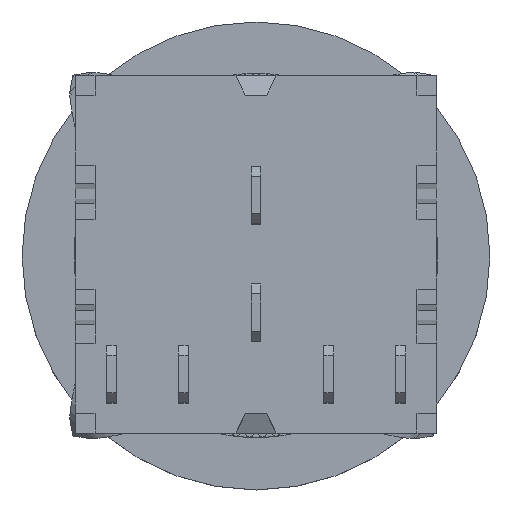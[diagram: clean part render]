
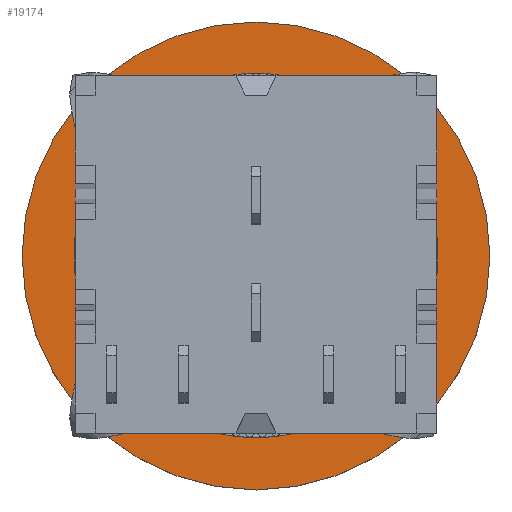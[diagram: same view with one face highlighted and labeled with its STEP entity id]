
A CAD part, top view. The second image highlights one B-rep face of the part: STEP entity #19174.
In plain terms, the highlighted planar face has unit normal (0, 0, 1).
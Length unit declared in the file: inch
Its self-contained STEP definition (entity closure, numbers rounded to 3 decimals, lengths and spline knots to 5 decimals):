
#851=CARTESIAN_POINT('',(11.7,11.71172,-58.96));
#852=DIRECTION('',(0.,0.,1.));
#853=DIRECTION('',(1.,0.,0.));
#854=AXIS2_PLACEMENT_3D('',#851,#852,#853);
#856=CARTESIAN_POINT('',(11.7,11.71172,-58.96));
#857=DIRECTION('',(0.,0.,1.));
#858=DIRECTION('',(-1.,0.,0.));
#859=AXIS2_PLACEMENT_3D('',#856,#857,#858);
#861=CARTESIAN_POINT('',(11.7,11.71172,-58.96));
#862=DIRECTION('',(0.,0.,-1.));
#863=DIRECTION('',(1.,0.,0.));
#864=AXIS2_PLACEMENT_3D('',#861,#862,#863);
#866=CARTESIAN_POINT('',(11.7,11.71172,-58.96));
#867=DIRECTION('',(0.,0.,-1.));
#868=DIRECTION('',(-1.,0.,0.));
#869=AXIS2_PLACEMENT_3D('',#866,#867,#868);
#15142=CARTESIAN_POINT('',(19.2,11.71172,-58.96));
#15144=VERTEX_POINT('',#15142);
#15146=CARTESIAN_POINT('',(4.2,11.71172,-58.96));
#15147=VERTEX_POINT('',#15146);
#15150=CARTESIAN_POINT('',(23.4,11.71172,-58.96));
#15151=CARTESIAN_POINT('',(0.,11.71172,-58.96));
#15152=VERTEX_POINT('',#15150);
#15153=VERTEX_POINT('',#15151);
#19159=CARTESIAN_POINT('',(11.7,11.71172,-58.96));
#19160=DIRECTION('',(0.,0.,1.));
#19161=DIRECTION('',(-1.,0.,0.));
#19162=AXIS2_PLACEMENT_3D('',#19159,#19160,#19161);
#19163=PLANE('',#19162);
#19165=ORIENTED_EDGE('',*,*,#19164,.F.);
#19167=ORIENTED_EDGE('',*,*,#19166,.F.);
#19168=EDGE_LOOP('',(#19165,#19167));
#19169=FACE_OUTER_BOUND('',#19168,.F.);
#19170=ORIENTED_EDGE('',*,*,#19139,.F.);
#19171=ORIENTED_EDGE('',*,*,#19153,.F.);
#19172=EDGE_LOOP('',(#19170,#19171));
#19173=FACE_BOUND('',#19172,.F.);
#19174=ADVANCED_FACE('',(#19169,#19173),#19163,.T.);
#855=CIRCLE('',#854,11.7);
#860=CIRCLE('',#859,11.7);
#865=CIRCLE('',#864,7.5);
#870=CIRCLE('',#869,7.5);
#19139=EDGE_CURVE('',#15144,#15147,#865,.T.);
#19153=EDGE_CURVE('',#15147,#15144,#870,.T.);
#19164=EDGE_CURVE('',#15152,#15153,#855,.T.);
#19166=EDGE_CURVE('',#15153,#15152,#860,.T.);
